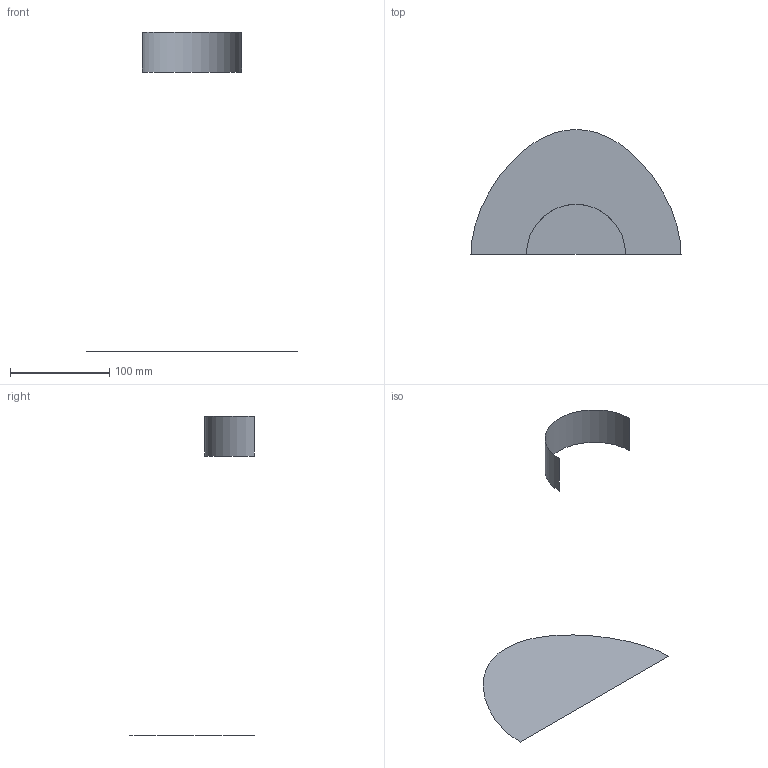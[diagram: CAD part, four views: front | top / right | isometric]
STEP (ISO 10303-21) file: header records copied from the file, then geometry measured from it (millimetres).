
FILE_DESCRIPTION(('CATIA V5 STEP Exchange'),'2;1');
FILE_NAME('C:\_Andres\UNIVERSIDAD\IQS\ASIGNATURAS\DAO\Controles\1617\c1\1original\Icart_Martori_Ej00-base_v16.stp','2017-02-06T16:27:42+00:00',('none'),('none'),'CATIA Version 5-6 Release 2014 SP1 HF18','CATIA V5 STEP AP203','none');
FILE_SCHEMA(('CONFIG_CONTROL_DESIGN'));
Length unit declared in the file: millimetre
Products named in the file (1): Icart_Martori_Ej00-base_v16
Bounding box: 212 x 126 x 322 mm (x, y, z)
Surface area: 26401.9 mm2 (no closed solid volume)
Topology: 0 solids, 2 shells, 2 faces, 16 edges, 26 vertices
Faces by surface type: cylinder 1, plane 1
Entity records: 230 total; most frequent: CARTESIAN_POINT 78, DIRECTION 16, COMPOSITE_CURVE_SEGMENT 9, TRIMMED_CURVE 9, AXIS2_PLACEMENT_3D 8, COMPOSITE_CURVE 7, ORIENTED_EDGE 7, EDGE_CURVE 7
